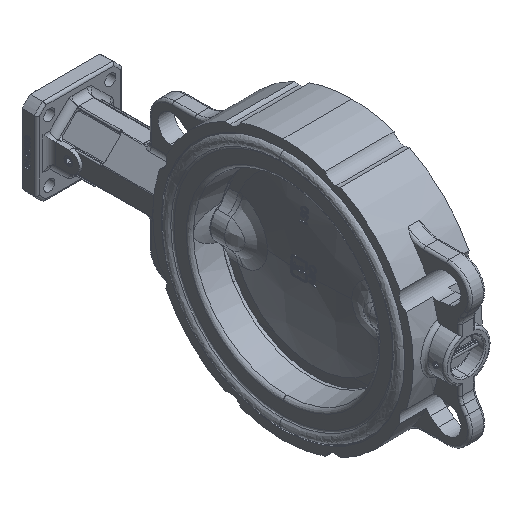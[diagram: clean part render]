
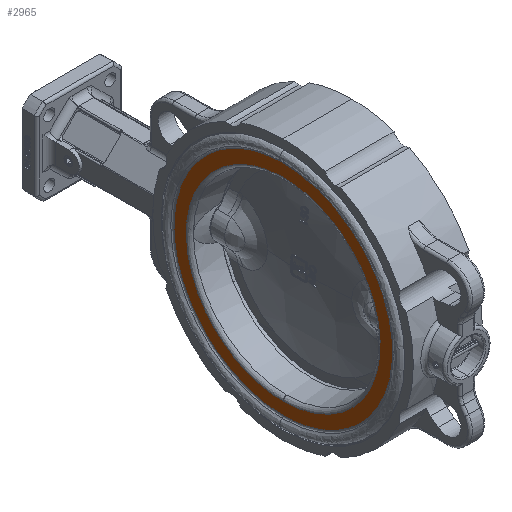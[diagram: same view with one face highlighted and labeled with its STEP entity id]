
A CAD part, isometric view. The second image highlights one B-rep face of the part: STEP entity #2965.
In plain terms, the highlighted planar face has unit normal (-1, 0, 0).
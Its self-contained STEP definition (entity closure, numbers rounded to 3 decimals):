
#2179 = CARTESIAN_POINT ( 'NONE',  ( -27.75, 0., 78.727 ) ) ;
#2965 = ADVANCED_FACE ( 'NONE', ( #58792, #44692 ), #17280, .F. ) ;
#4498 = CARTESIAN_POINT ( 'NONE',  ( -27.75, 0., 78.727 ) ) ;
#6479 = CARTESIAN_POINT ( 'NONE',  ( -27.75, 0., -78.727 ) ) ;
#8141 = AXIS2_PLACEMENT_3D ( 'NONE', #27999, #32891, #65214 ) ;
#8395 = CARTESIAN_POINT ( 'NONE',  ( -27.75, 0., -88.827 ) ) ;
#8475 = CARTESIAN_POINT ( 'NONE',  ( -27.75, -177.654, -88.827 ) ) ;
#8928 = CARTESIAN_POINT ( 'NONE',  ( -27.75, 0., -88.827 ) ) ;
#9069 = CARTESIAN_POINT ( 'NONE',  ( -27.75, 177.654, -88.827 ) ) ;
#11584 = CARTESIAN_POINT ( 'NONE',  ( -27.75, 0., 78.727 ) ) ;
#12925 = CARTESIAN_POINT ( 'NONE',  ( -27.75, 0., -88.827 ) ) ;
#17280 = PLANE ( 'NONE',  #8141 ) ;
#17531 = CARTESIAN_POINT ( 'NONE',  ( -27.75, 0., -78.727 ) ) ;
#20223 = CARTESIAN_POINT ( 'NONE',  ( -27.75, 177.654, 88.827 ) ) ;
#21696 = EDGE_LOOP ( 'NONE', ( #35900, #60341 ) ) ;
#22494 = ORIENTED_EDGE ( 'NONE', *, *, #45833, .F. ) ;
#24734 = VERTEX_POINT ( 'NONE', #56179 ) ;
#26017 =( BOUNDED_CURVE ( )  B_SPLINE_CURVE ( 3, ( #11584, #38865, #65621, #6479 ),
 .UNSPECIFIED., .F., .F. ) 
 B_SPLINE_CURVE_WITH_KNOTS ( ( 4, 4 ),
 ( 0.5, 1. ),
 .UNSPECIFIED. ) 
 CURVE ( )  GEOMETRIC_REPRESENTATION_ITEM ( )  RATIONAL_B_SPLINE_CURVE ( ( 1., 0.333, 0.333, 1. ) ) 
 REPRESENTATION_ITEM ( '' )  );
#27999 = CARTESIAN_POINT ( 'NONE',  ( -27.75, 88.827, 0. ) ) ;
#32891 = DIRECTION ( 'NONE',  ( 1., 0., 0. ) ) ;
#33586 = EDGE_LOOP ( 'NONE', ( #43554, #22494 ) ) ;
#35463 =( BOUNDED_CURVE ( )  B_SPLINE_CURVE ( 3, ( #67574, #45768, #8475, #8928 ),
 .UNSPECIFIED., .F., .F. ) 
 B_SPLINE_CURVE_WITH_KNOTS ( ( 4, 4 ),
 ( 0.5, 1. ),
 .UNSPECIFIED. ) 
 CURVE ( )  GEOMETRIC_REPRESENTATION_ITEM ( )  RATIONAL_B_SPLINE_CURVE ( ( 1., 0.333, 0.333, 1. ) ) 
 REPRESENTATION_ITEM ( '' )  );
#35758 = VERTEX_POINT ( 'NONE', #51266 ) ;
#35781 = EDGE_CURVE ( 'NONE', #56602, #24734, #43741, .T. ) ;
#35900 = ORIENTED_EDGE ( 'NONE', *, *, #35781, .F. ) ;
#38865 = CARTESIAN_POINT ( 'NONE',  ( -27.75, 157.455, 78.727 ) ) ;
#41577 = VERTEX_POINT ( 'NONE', #4498 ) ;
#42559 = EDGE_CURVE ( 'NONE', #24734, #56602, #35463, .T. ) ;
#43554 = ORIENTED_EDGE ( 'NONE', *, *, #68493, .F. ) ;
#43741 =( BOUNDED_CURVE ( )  B_SPLINE_CURVE ( 3, ( #8395, #9069, #20223, #66313 ),
 .UNSPECIFIED., .F., .F. ) 
 B_SPLINE_CURVE_WITH_KNOTS ( ( 4, 4 ),
 ( 0., 0.5 ),
 .UNSPECIFIED. ) 
 CURVE ( )  GEOMETRIC_REPRESENTATION_ITEM ( )  RATIONAL_B_SPLINE_CURVE ( ( 1., 0.333, 0.333, 1. ) ) 
 REPRESENTATION_ITEM ( '' )  );
#44692 = FACE_BOUND ( 'NONE', #33586, .T. ) ;
#45490 =( BOUNDED_CURVE ( )  B_SPLINE_CURVE ( 3, ( #17531, #60860, #66410, #2179 ),
 .UNSPECIFIED., .F., .F. ) 
 B_SPLINE_CURVE_WITH_KNOTS ( ( 4, 4 ),
 ( 0., 0.5 ),
 .UNSPECIFIED. ) 
 CURVE ( )  GEOMETRIC_REPRESENTATION_ITEM ( )  RATIONAL_B_SPLINE_CURVE ( ( 1., 0.333, 0.333, 1. ) ) 
 REPRESENTATION_ITEM ( '' )  );
#45768 = CARTESIAN_POINT ( 'NONE',  ( -27.75, -177.654, 88.827 ) ) ;
#45833 = EDGE_CURVE ( 'NONE', #41577, #35758, #26017, .T. ) ;
#51266 = CARTESIAN_POINT ( 'NONE',  ( -27.75, 0., -78.727 ) ) ;
#56179 = CARTESIAN_POINT ( 'NONE',  ( -27.75, 0., 88.827 ) ) ;
#56602 = VERTEX_POINT ( 'NONE', #12925 ) ;
#58792 = FACE_OUTER_BOUND ( 'NONE', #21696, .T. ) ;
#60341 = ORIENTED_EDGE ( 'NONE', *, *, #42559, .F. ) ;
#60860 = CARTESIAN_POINT ( 'NONE',  ( -27.75, -157.455, -78.727 ) ) ;
#65214 = DIRECTION ( 'NONE',  ( 0., 1., 0. ) ) ;
#65621 = CARTESIAN_POINT ( 'NONE',  ( -27.75, 157.455, -78.727 ) ) ;
#66313 = CARTESIAN_POINT ( 'NONE',  ( -27.75, 0., 88.827 ) ) ;
#66410 = CARTESIAN_POINT ( 'NONE',  ( -27.75, -157.455, 78.727 ) ) ;
#67574 = CARTESIAN_POINT ( 'NONE',  ( -27.75, 0., 88.827 ) ) ;
#68493 = EDGE_CURVE ( 'NONE', #35758, #41577, #45490, .T. ) ;
